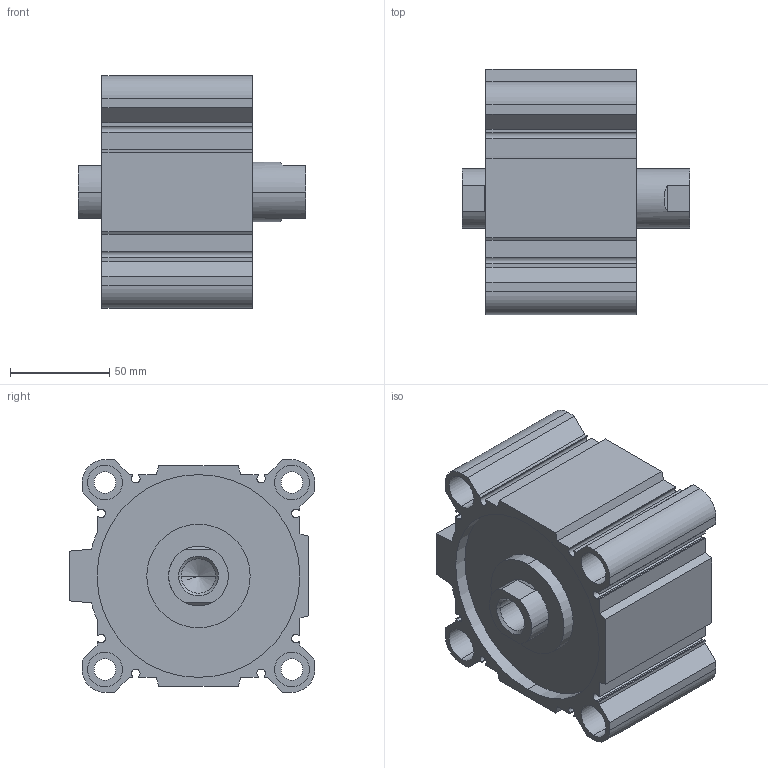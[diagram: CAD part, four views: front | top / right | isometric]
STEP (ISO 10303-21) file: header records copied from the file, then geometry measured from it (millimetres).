
FILE_DESCRIPTION (( 'STEP AP203' ), '1' );
FILE_NAME ('CCMB100-15F-P.STEP', '2020-08-05T11:52:53', ( '' ), ( '' ), 'SwSTEP 2.0', 'SolidWorks 2019', '' );
FILE_SCHEMA (( 'CONFIG_CONTROL_DESIGN' ));
Length unit declared in the file: millimetre
Products named in the file (1): CCMB100-15F-P
Bounding box: 114.5 x 123.5 x 117 mm (x, y, z)
Volume: 692883.9 mm3; surface area: 157614.4 mm2
Topology: 2 solids, 2 shells, 178 faces, 456 edges, 298 vertices
Faces by surface type: plane 90, cylinder 76, cone 12
Entity records: 5495 total; most frequent: DIRECTION 970, CARTESIAN_POINT 941, ORIENTED_EDGE 904, EDGE_CURVE 452, AXIS2_PLACEMENT_3D 343, VERTEX_POINT 298, VECTOR 284, LINE 284
